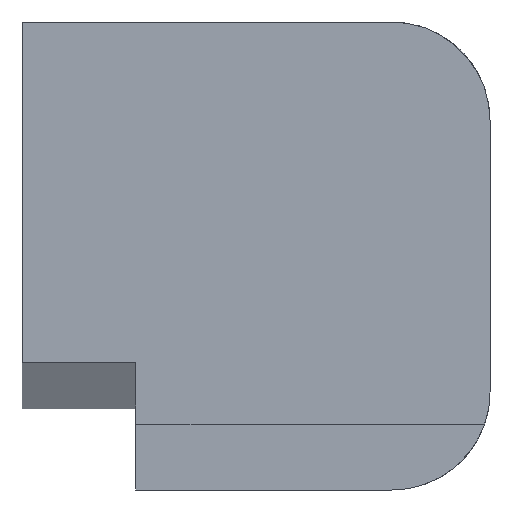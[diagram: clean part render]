
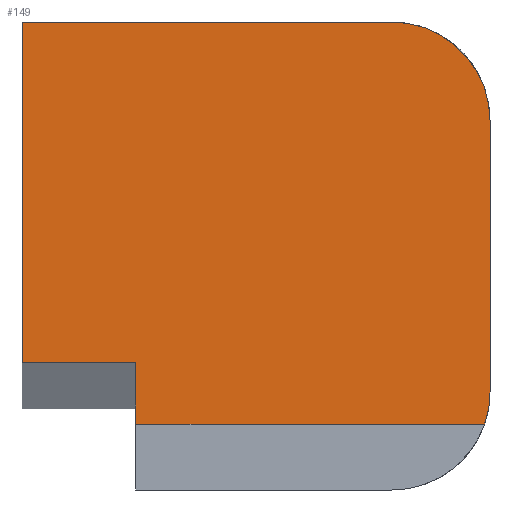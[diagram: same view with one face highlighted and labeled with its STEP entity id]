
A CAD part, front view. The second image highlights one B-rep face of the part: STEP entity #149.
In plain terms, the highlighted planar face has unit normal (0, -1, 0).
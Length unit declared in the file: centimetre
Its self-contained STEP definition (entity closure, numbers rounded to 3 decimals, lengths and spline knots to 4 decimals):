
#6 = VECTOR ( 'NONE', #437, 100. ) ;
#11 = EDGE_CURVE ( 'NONE', #855, #1540, #374, .T. ) ;
#24 = CARTESIAN_POINT ( 'NONE',  ( 789.3331, 0., 789.3331 ) ) ;
#25 = ORIENTED_EDGE ( 'NONE', *, *, #484, .T. ) ;
#118 = DIRECTION ( 'NONE',  ( 1., 0., 0. ) ) ;
#149 = ADVANCED_FACE ( 'NONE', ( #495 ), #1137, .F. ) ;
#150 = ORIENTED_EDGE ( 'NONE', *, *, #1193, .F. ) ;
#154 = DIRECTION ( 'NONE',  ( 0., -1., 0. ) ) ;
#218 = DIRECTION ( 'NONE',  ( 0., 0., 1. ) ) ;
#280 = DIRECTION ( 'NONE',  ( 0., -1., 0. ) ) ;
#308 = CARTESIAN_POINT ( 'NONE',  ( 1000., 0., 789.3331 ) ) ;
#317 = CARTESIAN_POINT ( 'NONE',  ( 243.3546, 0., 271.5511 ) ) ;
#353 = DIRECTION ( 'NONE',  ( 0., 0., -1. ) ) ;
#367 = DIRECTION ( 'NONE',  ( 0., 1., 0. ) ) ;
#374 = LINE ( 'NONE', #1538, #544 ) ;
#437 = DIRECTION ( 'NONE',  ( 0., 0., -1. ) ) ;
#444 = CARTESIAN_POINT ( 'NONE',  ( 0., 0., 1000. ) ) ;
#484 = EDGE_CURVE ( 'NONE', #1280, #1540, #1443, .T. ) ;
#495 = FACE_OUTER_BOUND ( 'NONE', #1380, .T. ) ;
#499 = LINE ( 'NONE', #758, #872 ) ;
#510 = VERTEX_POINT ( 'NONE', #308 ) ;
#544 = VECTOR ( 'NONE', #618, 100. ) ;
#562 = CARTESIAN_POINT ( 'NONE',  ( 0., 0., 1000. ) ) ;
#618 = DIRECTION ( 'NONE',  ( -1., 0., 0. ) ) ;
#625 = EDGE_CURVE ( 'NONE', #510, #652, #1599, .T. ) ;
#652 = VERTEX_POINT ( 'NONE', #871 ) ;
#722 = LINE ( 'NONE', #444, #1113 ) ;
#734 = ORIENTED_EDGE ( 'NONE', *, *, #1615, .T. ) ;
#758 = CARTESIAN_POINT ( 'NONE',  ( 0., 0., 140.9441 ) ) ;
#814 = DIRECTION ( 'NONE',  ( 0., 0., 1. ) ) ;
#835 = CARTESIAN_POINT ( 'NONE',  ( 789.3331, 0., 1000. ) ) ;
#838 = AXIS2_PLACEMENT_3D ( 'NONE', #913, #280, #814 ) ;
#855 = VERTEX_POINT ( 'NONE', #1513 ) ;
#856 = EDGE_CURVE ( 'NONE', #1572, #1416, #499, .T. ) ;
#871 = CARTESIAN_POINT ( 'NONE',  ( 1000., 0., 209.5403 ) ) ;
#872 = VECTOR ( 'NONE', #118, 100. ) ;
#883 = CARTESIAN_POINT ( 'NONE',  ( 988.4539, 0., 140.9441 ) ) ;
#907 = ORIENTED_EDGE ( 'NONE', *, *, #856, .T. ) ;
#913 = CARTESIAN_POINT ( 'NONE',  ( 790.4597, 0., 209.5403 ) ) ;
#931 = ORIENTED_EDGE ( 'NONE', *, *, #1246, .F. ) ;
#937 = CARTESIAN_POINT ( 'NONE',  ( 243.3546, 0., 140.9441 ) ) ;
#1006 = CARTESIAN_POINT ( 'NONE',  ( 0., 0., 1000. ) ) ;
#1017 = AXIS2_PLACEMENT_3D ( 'NONE', #24, #154, #1321 ) ;
#1086 = CARTESIAN_POINT ( 'NONE',  ( 0., 0., 1000. ) ) ;
#1087 = ORIENTED_EDGE ( 'NONE', *, *, #625, .F. ) ;
#1113 = VECTOR ( 'NONE', #1477, 100. ) ;
#1114 = LINE ( 'NONE', #317, #1383 ) ;
#1137 = PLANE ( 'NONE',  #1207 ) ;
#1193 = EDGE_CURVE ( 'NONE', #1572, #855, #1114, .T. ) ;
#1194 = CARTESIAN_POINT ( 'NONE',  ( 0., 0., 271.5511 ) ) ;
#1207 = AXIS2_PLACEMENT_3D ( 'NONE', #1006, #367, #1389 ) ;
#1235 = CARTESIAN_POINT ( 'NONE',  ( 1000., 0., 1000. ) ) ;
#1246 = EDGE_CURVE ( 'NONE', #1280, #1253, #722, .T. ) ;
#1253 = VERTEX_POINT ( 'NONE', #835 ) ;
#1280 = VERTEX_POINT ( 'NONE', #1086 ) ;
#1321 = DIRECTION ( 'NONE',  ( 0., 0., 1. ) ) ;
#1334 = ORIENTED_EDGE ( 'NONE', *, *, #1644, .T. ) ;
#1380 = EDGE_LOOP ( 'NONE', ( #25, #1424, #150, #907, #734, #1087, #1334, #931 ) ) ;
#1383 = VECTOR ( 'NONE', #218, 100. ) ;
#1389 = DIRECTION ( 'NONE',  ( 0., 0., 1. ) ) ;
#1416 = VERTEX_POINT ( 'NONE', #883 ) ;
#1424 = ORIENTED_EDGE ( 'NONE', *, *, #11, .F. ) ;
#1430 = VECTOR ( 'NONE', #353, 100. ) ;
#1443 = LINE ( 'NONE', #562, #6 ) ;
#1477 = DIRECTION ( 'NONE',  ( 1., 0., 0. ) ) ;
#1513 = CARTESIAN_POINT ( 'NONE',  ( 243.3546, 0., 271.5511 ) ) ;
#1538 = CARTESIAN_POINT ( 'NONE',  ( 243.3546, 0., 271.5511 ) ) ;
#1540 = VERTEX_POINT ( 'NONE', #1194 ) ;
#1572 = VERTEX_POINT ( 'NONE', #937 ) ;
#1599 = LINE ( 'NONE', #1235, #1430 ) ;
#1603 = CIRCLE ( 'NONE', #1017, 210.6669 ) ;
#1615 = EDGE_CURVE ( 'NONE', #1416, #652, #1628, .T. ) ;
#1628 = CIRCLE ( 'NONE', #838, 209.5403 ) ;
#1644 = EDGE_CURVE ( 'NONE', #510, #1253, #1603, .T. ) ;
